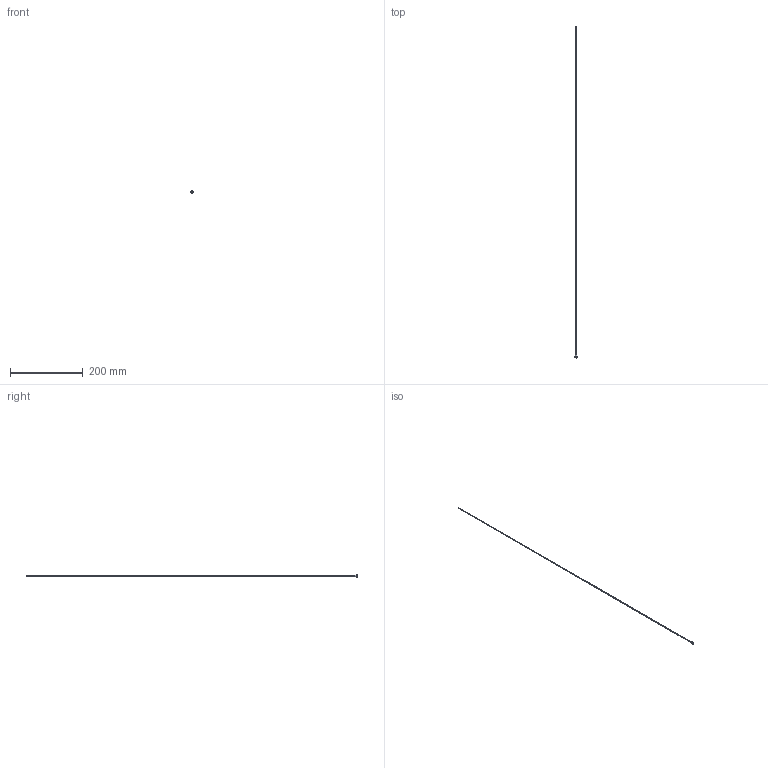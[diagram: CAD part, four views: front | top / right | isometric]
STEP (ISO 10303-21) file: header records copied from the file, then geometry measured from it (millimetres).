
FILE_DESCRIPTION(/* description */ (''),/* implementation_level */ '2;1');
FILE_NAME(/* name */ 'C:/Users/drich/Desktop/JR090T-36 v1.step',/* time_stamp */ '2019-12-30T13:01:15-06:00',/* author */ (''),/* organization */ (''),/* preprocessor_version */ 'ST-DEVELOPER v18',/* originating_system */ 'Autodesk Translation Framework v8.12.0.6',/* authorisation */ '');
FILE_SCHEMA (('AUTOMOTIVE_DESIGN { 1 0 10303 214 3 1 1 }'));
Length unit declared in the file: inch
Products named in the file (1): JR090T-36
Bounding box: 6.22 x 914.4 x 6.22 mm (x, y, z)
Volume: 1254.5 mm3; surface area: 12277.1 mm2
Topology: 1 solids, 1 shells, 19 faces, 47 edges, 33 vertices
Faces by surface type: plane 11, cylinder 4, torus 3, cone 1
Full cylindrical faces by diameter (mm): 1.93 x1, 2.286 x1, 4.727 x1, 6.223 x1
Entity records: 624 total; most frequent: DIRECTION 111, CARTESIAN_POINT 100, ORIENTED_EDGE 94, EDGE_CURVE 47, AXIS2_PLACEMENT_3D 44, VERTEX_POINT 33, EDGE_LOOP 24, CIRCLE 24
